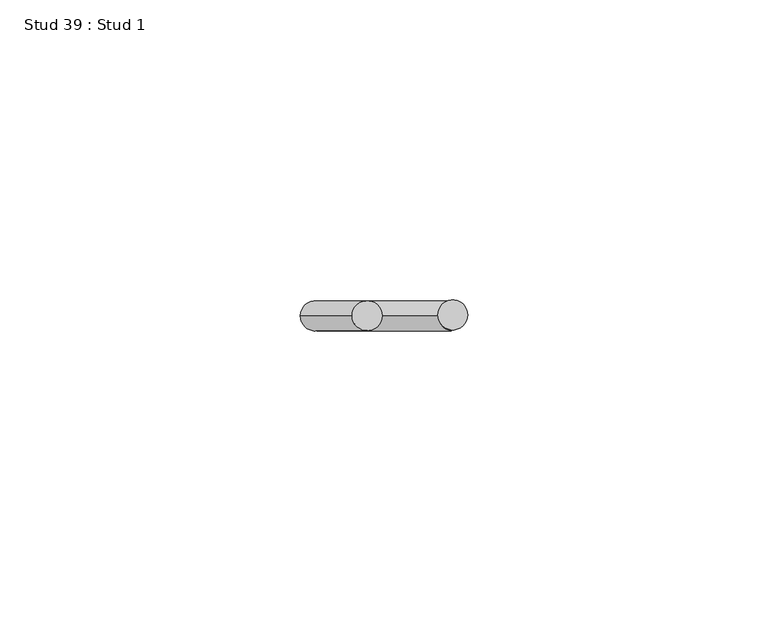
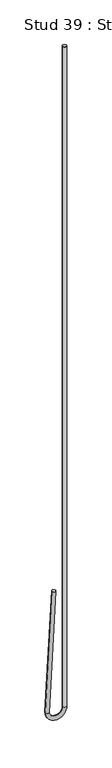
"""IFC4 building model written with IfcOpenShell, lengths in millimetres: proxy geometry, Stud 39 : Stud 1."""

from ifc_helpers import new_model, si_unit, point, frame, origin, place, context, project, spatial, circle_curve, ellipse_curve, trimmed, source, transform, mapped, element, save
from ifc_brep_helpers import plane_surface, cylinder_surface, revolved_surface, advanced_brep


def stud_39_stud_1_f72afb3a(model_context):
    return source(origin(), model_context, "Body", "AdvancedBrep", [
        advanced_brep(
        [(-14671.4532788, 10839.5191481, 3640.800192), (-14666.4601311, 10839.5191481, 3640.5385122), (-14680.0939451, 10839.5191481, 3475.9264558), (-14675.1007975, 10839.5191481, 3475.664776), (-14657.1920812, 10839.5191481, 3475.7956159), (-14652.1920812, 10839.5191481, 3475.7956159), (-14652.1920812, 10839.5191481, 4390.1956159), (-14657.1920812, 10839.5191481, 4390.1956159)],
        [
            (0, 1, circle_curve(frame((-14668.9567049, 10839.5191481, 3640.6693521), z_axis=(0.05233595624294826, 0.0, 0.9986295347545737), x_axis=(0.9986295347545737, 0.0, -0.05233595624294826)), 2.5)),
            (1, 0, circle_curve(frame((-14668.9567049, 10839.5191481, 3640.6693521), z_axis=(0.05233595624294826, 0.0, 0.9986295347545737), x_axis=(0.9986295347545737, 0.0, -0.05233595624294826)), 2.5)),
            (0, 2),
            (2, 3, circle_curve(frame((-14677.5973713, 10839.5191481, 3475.7956159), z_axis=(0.05233595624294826, 0.0, 0.9986295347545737), x_axis=(0.9986295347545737, 0.0, -0.05233595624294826)), 2.5)),
            (3, 1),
            (3, 2, circle_curve(frame((-14677.5973713, 10839.5191481, 3475.7956159), z_axis=(0.05233595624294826, 0.0, 0.9986295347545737), x_axis=(0.9986295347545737, 0.0, -0.05233595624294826)), 2.5)),
            (4, 3, circle_curve(frame((-14666.1447263, 10839.5191481, 3475.7956159), z_axis=(0.0, 1.0, 0.0), x_axis=(-1.0, 0.0, 0.0)), 8.952645)),
            (2, 5, circle_curve(frame((-14666.1447263, 10839.5191481, 3475.7956159), z_axis=(0.0, -1.0, 0.0), x_axis=(-1.0, 0.0, 0.0)), 13.952645)),
            (5, 4, circle_curve(frame((-14654.6920812, 10839.5191481, 3475.7956159), z_axis=(0.0, 0.0, -1.0), x_axis=(-1.0, 0.0, 0.0)), 2.5)),
            (4, 5, circle_curve(frame((-14654.6920812, 10839.5191481, 3475.7956159), z_axis=(0.0, 0.0, -1.0), x_axis=(-1.0, 0.0, 0.0)), 2.5)),
            (6, 7, circle_curve(frame((-14654.6920812, 10839.5191481, 4390.1956159), z_axis=(0.0, 0.0, 1.0), x_axis=(-1.0, 0.0, 0.0)), 2.5)),
            (7, 6, circle_curve(frame((-14654.6920812, 10839.5191481, 4390.1956159), z_axis=(0.0, 0.0, 1.0), x_axis=(-1.0, 0.0, 0.0)), 2.5)),
            (5, 6),
            (7, 4),
        ],
        [
            plane_surface(frame((-14668.9567049, 11433.2441481, 3640.6693521), z_axis=(0.05233595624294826, 0.0, 0.9986295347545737), x_axis=(0.0, -1.0, 0.0))),
            cylinder_surface(frame((-14668.9567049, 10839.5191481, 3640.6693521), z_axis=(0.05233595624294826, 0.0, 0.9986295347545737), x_axis=(0.9986295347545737, 0.0, -0.05233595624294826)), 2.5),
            revolved_surface(trimmed(ellipse_curve(frame((-14677.5973713, 10839.5191481, 3475.7956159), z_axis=(0.0, 0.0, 1.0), x_axis=(1.0, 0.0, 0.0)), 2.5, 2.5), [point((-14680.0973713, 10839.5191481, 3475.7956159))], [point((-14675.0973713, 10839.5191481, 3475.7956159))], True, "CARTESIAN"), (-14666.1447263, 11433.2441481, 3475.7956159), (0.0, -1.0, 0.0)),
            revolved_surface(trimmed(ellipse_curve(frame((-14677.5973713, 10839.5191481, 3475.7956159), z_axis=(0.0, 0.0, 1.0), x_axis=(1.0, 0.0, 0.0)), 2.5, 2.5), [point((-14675.0973713, 10839.5191481, 3475.7956159))], [point((-14680.0973713, 10839.5191481, 3475.7956159))], True, "CARTESIAN"), (-14666.1447263, 11433.2441481, 3475.7956159), (0.0, -1.0, 0.0)),
            plane_surface(frame((-14654.6920812, 11433.2441481, 4390.1956159), z_axis=(0.0, 0.0, 1.0), x_axis=(0.0, -1.0, 0.0))),
            cylinder_surface(frame((-14654.6920812, 10839.5191481, 3475.7956159), z_axis=(0.0, 0.0, -1.0), x_axis=(-1.0, 0.0, 0.0)), 2.5),
        ],
        [
            (0, [[1, 2]]),
            (1, [[-1, 3, 4, 5]]),
            (1, [[-2, -5, 6, -3]]),
            (2, [[7, -4, 8, 9]]),
            (3, [[-8, -6, -7, 10]]),
            (4, [[11, 12]]),
            (5, [[-9, 13, -12, 14]]),
            (5, [[-10, -14, -11, -13]]),
        ],
    ),
    ])


if __name__ == "__main__":
    model = new_model("IFC4")
    model_context = context("Model", 3, world=origin())
    ifc_project = project(units=[si_unit("LENGTHUNIT", "METRE", prefix="MILLI")], contexts=[model_context])
    site = spatial("IfcSite", under=ifc_project)
    building = spatial("IfcBuilding", under=site)
    placement = place(None, origin())
    stud_39_stud_1_shape = stud_39_stud_1_f72afb3a(model_context)
    element("IfcBuildingElementProxy", 1, Name="Stud 39 : Stud 1", ObjectType="Stud 39 : Stud 1", at=placement, inside=building, context=model_context, shape_type="MappedRepresentation", body=[
        mapped(stud_39_stud_1_shape, transform((0.0, 0.0, 0.0), x_axis=(1.0, 0.0, 0.0), y_axis=(0.0, 1.0, 0.0), z_axis=(0.0, 0.0, 1.0))),
    ])
    save(model, "model.ifc")
